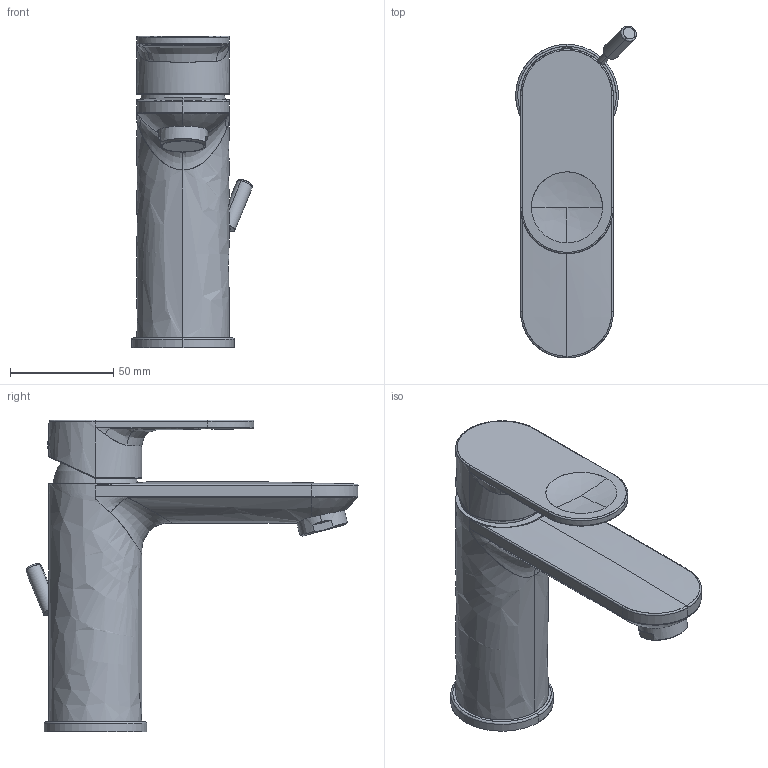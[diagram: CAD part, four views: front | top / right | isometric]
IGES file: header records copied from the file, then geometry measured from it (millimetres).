
Global section: file name: D:\01_Planungsdaten\_news19\Armaturen\B3\B31010001010\3D\Iges\B31010001010_neu.igs; native system: Rhinoceros ( Sep 13 2016 ); preprocessor: Trout Lake IGES 012 Sep 13 2016; date: 190225.140236; units: millimetre
Bounding box: 58.56 x 161.15 x 151.35 mm (x, y, z)
Surface area: 48449.3 mm2 (no closed solid volume)
Topology: 0 solids, 0 shells, 123 faces, 1355 edges, 1352 vertices
Faces by surface type: bspline 123
